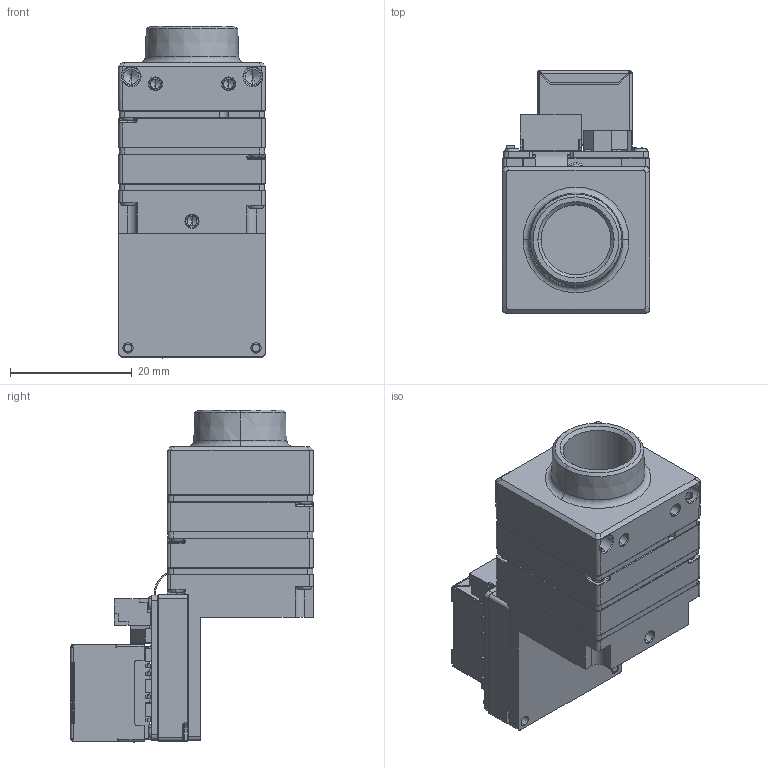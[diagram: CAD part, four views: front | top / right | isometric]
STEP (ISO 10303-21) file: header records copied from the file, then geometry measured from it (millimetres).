
FILE_DESCRIPTION (( 'STEP AP203' ), '1' );
FILE_NAME ('434-018-B_RJ45_90.STEP', '2025-04-21T19:15:07', ( '' ), ( '' ), 'SwSTEP 2.0', 'SolidWorks 2021', '' );
FILE_SCHEMA (( 'CONFIG_CONTROL_DESIGN' ));
Products named in the file (1): 434-018-B_RJ45_90
Bounding box: 24.13 x 39.81 x 54.45 mm (x, y, z)
Volume: 12498.2 mm3; surface area: 21128.8 mm2
Topology: 55 solids, 55 shells, 4903 faces, 12823 edges, 7942 vertices
Faces by surface type: plane 2865, cylinder 1250, cone 304, bspline 288, torus 132, sphere 64
Entity records: 153394 total; most frequent: CARTESIAN_POINT 34391, ORIENTED_EDGE 25290, DIRECTION 23950, EDGE_CURVE 12645, VECTOR 9092, LINE 9092, VERTEX_POINT 7938, AXIS2_PLACEMENT_3D 7429
